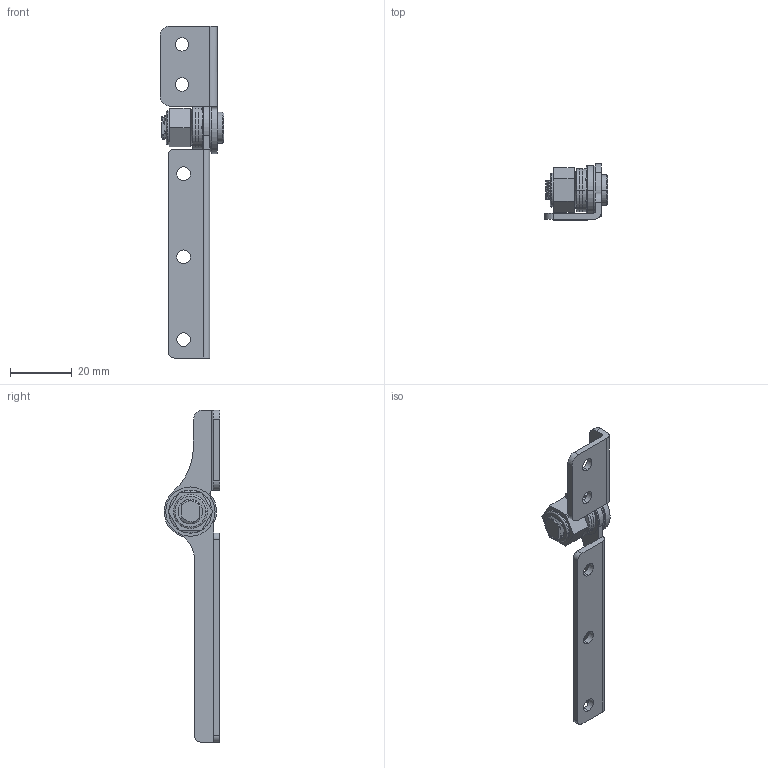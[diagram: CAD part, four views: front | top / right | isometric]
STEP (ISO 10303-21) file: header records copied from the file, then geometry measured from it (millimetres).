
FILE_DESCRIPTION (( 'STEP AP203' ), '1' );
FILE_NAME ('XG11-047-4L.STEP', '2025-07-26T07:56:38', ( '微软用户' ), ( '微软中国' ), 'SwSTEP 2.0', 'SolidWorks 2024', '' );
FILE_SCHEMA (( 'CONFIG_CONTROL_DESIGN' ));
Length unit declared in the file: millimetre
Products named in the file (1): XG11-047-4L
Bounding box: 20.5 x 18.06 x 107.81 mm (x, y, z)
Volume: 6470.3 mm3; surface area: 8366 mm2
Topology: 9 solids, 9 shells, 206 faces, 540 edges, 355 vertices
Faces by surface type: cylinder 84, plane 75, bspline 32, cone 13, torus 2
Entity records: 10887 total; most frequent: CARTESIAN_POINT 5875, ORIENTED_EDGE 1080, DIRECTION 931, EDGE_CURVE 540, VERTEX_POINT 355, AXIS2_PLACEMENT_3D 344, VECTOR 243, LINE 243
